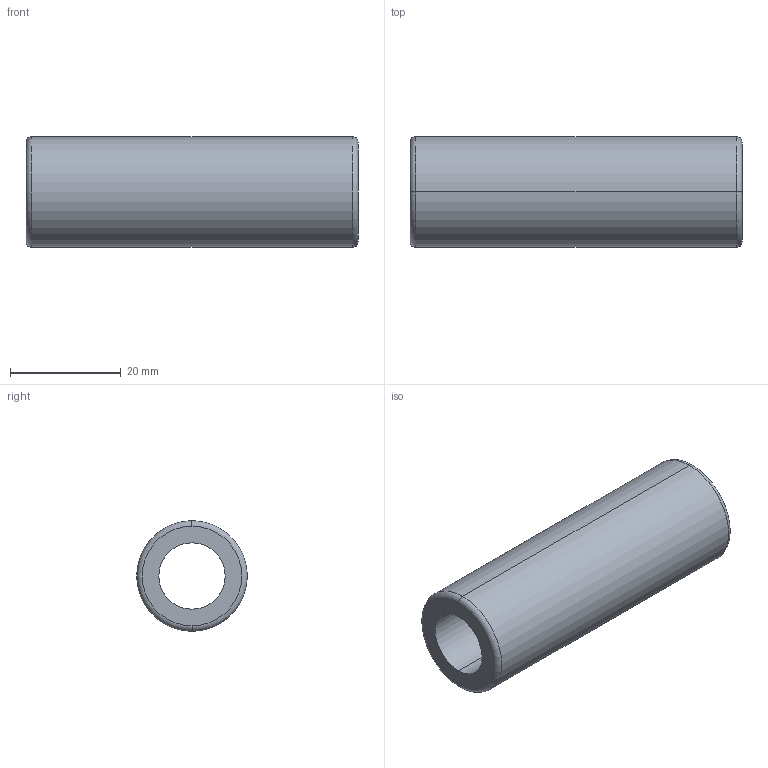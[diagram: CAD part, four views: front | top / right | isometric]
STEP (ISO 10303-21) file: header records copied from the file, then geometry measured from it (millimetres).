
FILE_DESCRIPTION (( 'STEP AP214' ), '1' );
FILE_NAME ('BR20 20x060.STEP', '2020-01-21T11:24:02', ( 'August' ), ( '' ), 'SwSTEP 2.0', 'SolidWorks 2018', '' );
FILE_SCHEMA (( 'AUTOMOTIVE_DESIGN' ));
Length unit declared in the file: millimetre
Products named in the file (1): BR20 20x060
Bounding box: 60 x 20 x 20 mm (x, y, z)
Volume: 7819.2 mm3; surface area: 6930.8 mm2
Topology: 1 solids, 1 shells, 14 faces, 28 edges, 16 vertices
Faces by surface type: cylinder 6, torus 4, cone 2, plane 2
Entity records: 406 total; most frequent: DIRECTION 78, CARTESIAN_POINT 59, ORIENTED_EDGE 56, AXIS2_PLACEMENT_3D 35, EDGE_CURVE 28, CIRCLE 20, VERTEX_POINT 16, EDGE_LOOP 16
